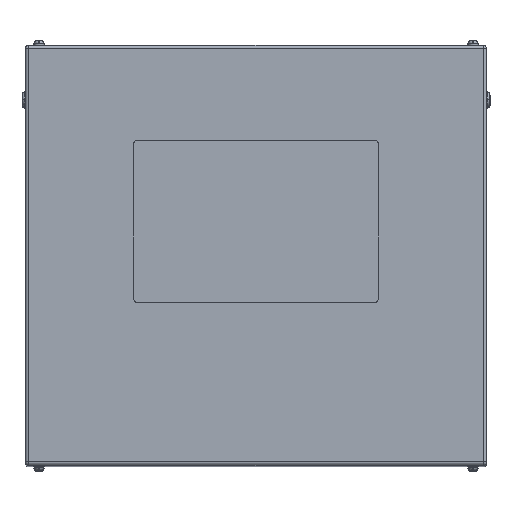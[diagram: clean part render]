
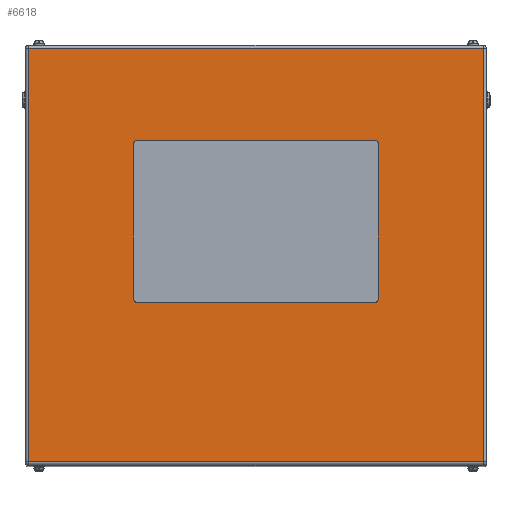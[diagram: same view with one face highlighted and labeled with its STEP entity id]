
A CAD part, top view. The second image highlights one B-rep face of the part: STEP entity #6618.
In plain terms, the highlighted planar face has unit normal (0, 0, 1).
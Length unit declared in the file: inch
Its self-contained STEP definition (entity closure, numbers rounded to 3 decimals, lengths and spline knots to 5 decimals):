
#32 = VERTEX_POINT ( 'NONE', #8152 ) ;
#192 = DIRECTION ( 'NONE',  ( 1., 0., 0. ) ) ;
#366 = LINE ( 'NONE', #2666, #9531 ) ;
#667 = VERTEX_POINT ( 'NONE', #2035 ) ;
#1137 = EDGE_CURVE ( 'NONE', #9661, #10196, #1361, .T. ) ;
#1361 = CIRCLE ( 'NONE', #14072, 0.25 ) ;
#1497 = ORIENTED_EDGE ( 'NONE', *, *, #6083, .T. ) ;
#1798 = LINE ( 'NONE', #4656, #3697 ) ;
#1817 = CARTESIAN_POINT ( 'NONE',  ( 9., -3.25, 29. ) ) ;
#1870 = LINE ( 'NONE', #9444, #4141 ) ;
#1893 = VECTOR ( 'NONE', #13481, 39.37008 ) ;
#2035 = CARTESIAN_POINT ( 'NONE',  ( 16.8, 15.234, 29. ) ) ;
#2262 = VECTOR ( 'NONE', #13910, 39.37008 ) ;
#2666 = CARTESIAN_POINT ( 'NONE',  ( -8.75, 8.5, 29. ) ) ;
#3073 = EDGE_LOOP ( 'NONE', ( #5308, #6301, #13087, #12064, #19964, #5407, #13993, #13299 ) ) ;
#3110 = EDGE_CURVE ( 'NONE', #20726, #9661, #11633, .T. ) ;
#3235 = VECTOR ( 'NONE', #17164, 39.37008 ) ;
#3697 = VECTOR ( 'NONE', #17964, 39.37008 ) ;
#3748 = CARTESIAN_POINT ( 'NONE',  ( 16.8, -15.234, 29. ) ) ;
#3798 = DIRECTION ( 'NONE',  ( 1., 0., 0. ) ) ;
#3994 = CIRCLE ( 'NONE', #9366, 0.25 ) ;
#4079 = CARTESIAN_POINT ( 'NONE',  ( 16.8, -15.234, 29. ) ) ;
#4141 = VECTOR ( 'NONE', #192, 39.37008 ) ;
#4270 = AXIS2_PLACEMENT_3D ( 'NONE', #12808, #4953, #6614 ) ;
#4360 = DIRECTION ( 'NONE',  ( 0., 0., -1. ) ) ;
#4373 = CARTESIAN_POINT ( 'NONE',  ( -16.8, 15.5, 29. ) ) ;
#4656 = CARTESIAN_POINT ( 'NONE',  ( 17., 15.234, 29. ) ) ;
#4953 = DIRECTION ( 'NONE',  ( 0., 0., 1. ) ) ;
#5283 = CARTESIAN_POINT ( 'NONE',  ( -8.75, -3.5, 29. ) ) ;
#5308 = ORIENTED_EDGE ( 'NONE', *, *, #19917, .F. ) ;
#5407 = ORIENTED_EDGE ( 'NONE', *, *, #1137, .F. ) ;
#5670 = VERTEX_POINT ( 'NONE', #7268 ) ;
#5702 = EDGE_LOOP ( 'NONE', ( #18537, #15690, #18868, #1497 ) ) ;
#5922 = CARTESIAN_POINT ( 'NONE',  ( 9., 8.25, 29. ) ) ;
#5998 = DIRECTION ( 'NONE',  ( -1., 0., 0. ) ) ;
#6083 = EDGE_CURVE ( 'NONE', #667, #12421, #1798, .T. ) ;
#6149 = EDGE_CURVE ( 'NONE', #9501, #32, #14730, .T. ) ;
#6301 = ORIENTED_EDGE ( 'NONE', *, *, #14153, .F. ) ;
#6572 = VERTEX_POINT ( 'NONE', #16642 ) ;
#6614 = DIRECTION ( 'NONE',  ( 1., 0., 0. ) ) ;
#6618 = ADVANCED_FACE ( 'NONE', ( #9080, #7407 ), #10668, .F. ) ;
#7027 = DIRECTION ( 'NONE',  ( 0., 0., 1. ) ) ;
#7268 = CARTESIAN_POINT ( 'NONE',  ( -9., -3.25, 29. ) ) ;
#7407 = FACE_OUTER_BOUND ( 'NONE', #5702, .T. ) ;
#8152 = CARTESIAN_POINT ( 'NONE',  ( -9., 8.25, 29. ) ) ;
#8976 = LINE ( 'NONE', #12019, #19922 ) ;
#9080 = FACE_BOUND ( 'NONE', #3073, .T. ) ;
#9366 = AXIS2_PLACEMENT_3D ( 'NONE', #15432, #15222, #19988 ) ;
#9444 = CARTESIAN_POINT ( 'NONE',  ( -8.75, -3.5, 29. ) ) ;
#9501 = VERTEX_POINT ( 'NONE', #9545 ) ;
#9531 = VECTOR ( 'NONE', #5998, 39.37008 ) ;
#9545 = CARTESIAN_POINT ( 'NONE',  ( -8.75, 8.5, 29. ) ) ;
#9661 = VERTEX_POINT ( 'NONE', #5922 ) ;
#10196 = VERTEX_POINT ( 'NONE', #19580 ) ;
#10457 = DIRECTION ( 'NONE',  ( 0., -1., 0. ) ) ;
#10668 = PLANE ( 'NONE',  #18065 ) ;
#10893 = VERTEX_POINT ( 'NONE', #5283 ) ;
#11633 = LINE ( 'NONE', #16259, #16798 ) ;
#12019 = CARTESIAN_POINT ( 'NONE',  ( -9., 8.25, 29. ) ) ;
#12064 = ORIENTED_EDGE ( 'NONE', *, *, #6149, .F. ) ;
#12312 = CIRCLE ( 'NONE', #4270, 0.25 ) ;
#12421 = VERTEX_POINT ( 'NONE', #19212 ) ;
#12606 = VERTEX_POINT ( 'NONE', #3748 ) ;
#12808 = CARTESIAN_POINT ( 'NONE',  ( 8.75, -3.25, 29. ) ) ;
#12978 = DIRECTION ( 'NONE',  ( -1., 0., 0. ) ) ;
#13087 = ORIENTED_EDGE ( 'NONE', *, *, #16844, .F. ) ;
#13299 = ORIENTED_EDGE ( 'NONE', *, *, #19686, .F. ) ;
#13481 = DIRECTION ( 'NONE',  ( 0., 1., 0. ) ) ;
#13850 = CARTESIAN_POINT ( 'NONE',  ( -16.8, -15.234, 29. ) ) ;
#13910 = DIRECTION ( 'NONE',  ( 1., 0., 0. ) ) ;
#13993 = ORIENTED_EDGE ( 'NONE', *, *, #3110, .F. ) ;
#14072 = AXIS2_PLACEMENT_3D ( 'NONE', #14416, #15912, #12978 ) ;
#14153 = EDGE_CURVE ( 'NONE', #5670, #10893, #3994, .T. ) ;
#14397 = AXIS2_PLACEMENT_3D ( 'NONE', #16492, #7027, #3798 ) ;
#14416 = CARTESIAN_POINT ( 'NONE',  ( 8.75, 8.25, 29. ) ) ;
#14730 = CIRCLE ( 'NONE', #14397, 0.25 ) ;
#15084 = VERTEX_POINT ( 'NONE', #13850 ) ;
#15222 = DIRECTION ( 'NONE',  ( 0., 0., 1. ) ) ;
#15357 = CARTESIAN_POINT ( 'NONE',  ( 17., 15.5, 29. ) ) ;
#15432 = CARTESIAN_POINT ( 'NONE',  ( -8.75, -3.25, 29. ) ) ;
#15575 = DIRECTION ( 'NONE',  ( -1., 0., 0. ) ) ;
#15690 = ORIENTED_EDGE ( 'NONE', *, *, #19806, .T. ) ;
#15912 = DIRECTION ( 'NONE',  ( 0., 0., 1. ) ) ;
#16042 = DIRECTION ( 'NONE',  ( 0., 1., 0. ) ) ;
#16259 = CARTESIAN_POINT ( 'NONE',  ( 9., 8.25, 29. ) ) ;
#16492 = CARTESIAN_POINT ( 'NONE',  ( -8.75, 8.25, 29. ) ) ;
#16642 = CARTESIAN_POINT ( 'NONE',  ( 8.75, -3.5, 29. ) ) ;
#16798 = VECTOR ( 'NONE', #16042, 39.37008 ) ;
#16844 = EDGE_CURVE ( 'NONE', #32, #5670, #8976, .T. ) ;
#17164 = DIRECTION ( 'NONE',  ( 0., -1., 0. ) ) ;
#17867 = EDGE_CURVE ( 'NONE', #10196, #9501, #366, .T. ) ;
#17964 = DIRECTION ( 'NONE',  ( -1., 0., 0. ) ) ;
#18065 = AXIS2_PLACEMENT_3D ( 'NONE', #15357, #4360, #15575 ) ;
#18143 = LINE ( 'NONE', #18252, #1893 ) ;
#18252 = CARTESIAN_POINT ( 'NONE',  ( 16.8, 15.5, 29. ) ) ;
#18537 = ORIENTED_EDGE ( 'NONE', *, *, #19418, .T. ) ;
#18868 = ORIENTED_EDGE ( 'NONE', *, *, #19281, .T. ) ;
#19212 = CARTESIAN_POINT ( 'NONE',  ( -16.8, 15.234, 29. ) ) ;
#19281 = EDGE_CURVE ( 'NONE', #12606, #667, #18143, .T. ) ;
#19418 = EDGE_CURVE ( 'NONE', #12421, #15084, #20433, .T. ) ;
#19580 = CARTESIAN_POINT ( 'NONE',  ( 8.75, 8.5, 29. ) ) ;
#19686 = EDGE_CURVE ( 'NONE', #6572, #20726, #12312, .T. ) ;
#19806 = EDGE_CURVE ( 'NONE', #15084, #12606, #20574, .T. ) ;
#19917 = EDGE_CURVE ( 'NONE', #10893, #6572, #1870, .T. ) ;
#19922 = VECTOR ( 'NONE', #10457, 39.37008 ) ;
#19964 = ORIENTED_EDGE ( 'NONE', *, *, #17867, .F. ) ;
#19988 = DIRECTION ( 'NONE',  ( 1., 0., 0. ) ) ;
#20433 = LINE ( 'NONE', #4373, #3235 ) ;
#20574 = LINE ( 'NONE', #4079, #2262 ) ;
#20726 = VERTEX_POINT ( 'NONE', #1817 ) ;
